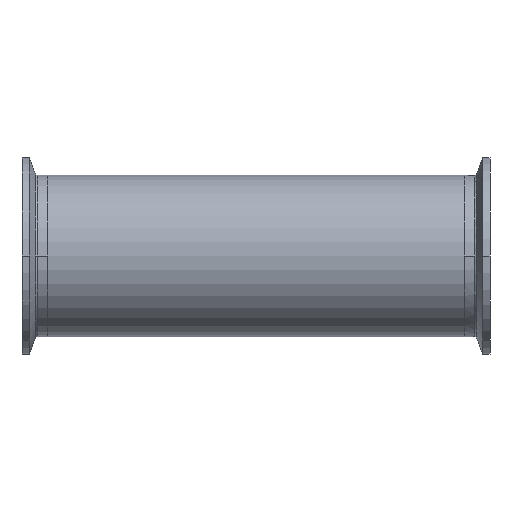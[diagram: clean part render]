
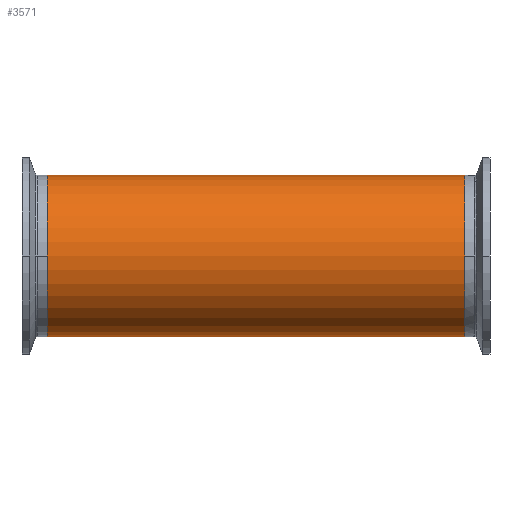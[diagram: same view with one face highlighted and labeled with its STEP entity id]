
A CAD part, front view. The second image highlights one B-rep face of the part: STEP entity #3571.
In plain terms, the highlighted cylindrical face has radius 31.75 mm (diameter 63.5 mm), a partial arc.
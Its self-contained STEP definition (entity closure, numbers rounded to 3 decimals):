
#16 = DIRECTION ( 'NONE',  ( 1., 0., 0. ) ) ;
#41 = DIRECTION ( 'NONE',  ( 0., 0., 1. ) ) ;
#114 = CARTESIAN_POINT ( 'NONE',  ( 171.903, 0., 31.75 ) ) ;
#144 = CARTESIAN_POINT ( 'NONE',  ( 82.1, 0., 0. ) ) ;
#202 = EDGE_CURVE ( 'NONE', #4020, #765, #1227, .T. ) ;
#250 = CYLINDRICAL_SURFACE ( 'NONE', #2366, 31.75 ) ;
#324 = CARTESIAN_POINT ( 'NONE',  ( -82.1, 0., 0. ) ) ;
#373 = VERTEX_POINT ( 'NONE', #1536 ) ;
#402 = VECTOR ( 'NONE', #2887, 1000. ) ;
#432 = AXIS2_PLACEMENT_3D ( 'NONE', #324, #16, #41 ) ;
#481 = VECTOR ( 'NONE', #713, 1000. ) ;
#713 = DIRECTION ( 'NONE',  ( -1., 0., 0. ) ) ;
#717 = ORIENTED_EDGE ( 'NONE', *, *, #2326, .F. ) ;
#765 = VERTEX_POINT ( 'NONE', #3339 ) ;
#1040 = CIRCLE ( 'NONE', #2938, 31.75 ) ;
#1076 = FACE_OUTER_BOUND ( 'NONE', #1304, .T. ) ;
#1199 = CARTESIAN_POINT ( 'NONE',  ( 171.903, 0., 0. ) ) ;
#1227 = CIRCLE ( 'NONE', #432, 31.75 ) ;
#1304 = EDGE_LOOP ( 'NONE', ( #717, #4072, #3204, #2306 ) ) ;
#1384 = DIRECTION ( 'NONE',  ( -1., 0., 0. ) ) ;
#1536 = CARTESIAN_POINT ( 'NONE',  ( 82.1, 0., 31.75 ) ) ;
#2082 = LINE ( 'NONE', #2621, #402 ) ;
#2263 = LINE ( 'NONE', #114, #481 ) ;
#2306 = ORIENTED_EDGE ( 'NONE', *, *, #202, .T. ) ;
#2326 = EDGE_CURVE ( 'NONE', #3425, #765, #2082, .T. ) ;
#2366 = AXIS2_PLACEMENT_3D ( 'NONE', #1199, #2486, #4127 ) ;
#2486 = DIRECTION ( 'NONE',  ( -1., 0., 0. ) ) ;
#2528 = EDGE_CURVE ( 'NONE', #3425, #373, #1040, .T. ) ;
#2621 = CARTESIAN_POINT ( 'NONE',  ( 171.903, 0., -31.75 ) ) ;
#2887 = DIRECTION ( 'NONE',  ( -1., 0., 0. ) ) ;
#2938 = AXIS2_PLACEMENT_3D ( 'NONE', #144, #1384, #3745 ) ;
#3204 = ORIENTED_EDGE ( 'NONE', *, *, #3954, .T. ) ;
#3328 = CARTESIAN_POINT ( 'NONE',  ( -82.1, 0., 31.75 ) ) ;
#3339 = CARTESIAN_POINT ( 'NONE',  ( -82.1, 0., -31.75 ) ) ;
#3425 = VERTEX_POINT ( 'NONE', #3837 ) ;
#3571 = ADVANCED_FACE ( 'NONE', ( #1076 ), #250, .T. ) ;
#3745 = DIRECTION ( 'NONE',  ( 0., 0., 1. ) ) ;
#3837 = CARTESIAN_POINT ( 'NONE',  ( 82.1, 0., -31.75 ) ) ;
#3954 = EDGE_CURVE ( 'NONE', #373, #4020, #2263, .T. ) ;
#4020 = VERTEX_POINT ( 'NONE', #3328 ) ;
#4072 = ORIENTED_EDGE ( 'NONE', *, *, #2528, .T. ) ;
#4127 = DIRECTION ( 'NONE',  ( 0., 0., 1. ) ) ;
